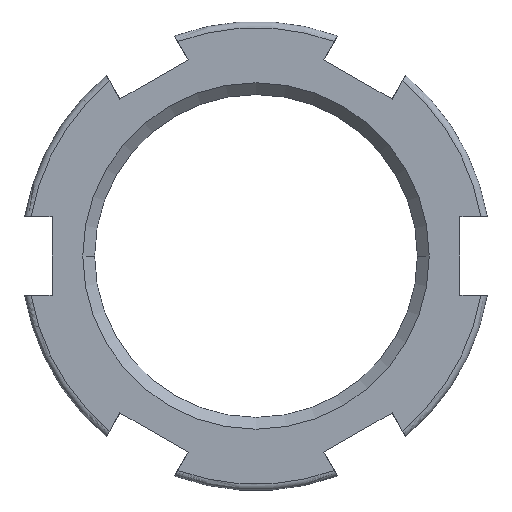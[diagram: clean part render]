
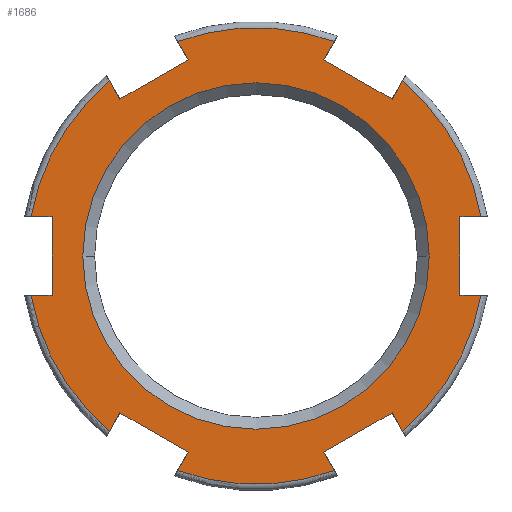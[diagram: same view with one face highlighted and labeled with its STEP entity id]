
A CAD part, front view. The second image highlights one B-rep face of the part: STEP entity #1686.
In plain terms, the highlighted planar face has unit normal (0, -1, 0).
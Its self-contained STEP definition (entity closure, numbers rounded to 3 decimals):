
#139=CARTESIAN_POINT('',(0.,0.,0.));
#140=DIRECTION('',(0.,1.,0.));
#141=DIRECTION('',(-1.,0.,0.));
#142=AXIS2_PLACEMENT_3D('',#139,#140,#141);
#147=CARTESIAN_POINT('',(0.,0.,0.));
#148=DIRECTION('',(0.,-1.,0.));
#149=DIRECTION('',(-1.,0.,0.));
#150=AXIS2_PLACEMENT_3D('',#147,#148,#149);
#155=DIRECTION('',(-0.5,0.,0.866));
#156=VECTOR('',#155,0.666);
#157=CARTESIAN_POINT('',(2.488,0.,-6.81));
#158=LINE('',#157,#156);
#162=DIRECTION('',(-0.5,0.,-0.866));
#163=VECTOR('',#162,0.666);
#164=CARTESIAN_POINT('',(-2.155,0.,-6.233));
#165=LINE('',#164,#163);
#169=DIRECTION('',(0.866,0.,-0.5));
#170=VECTOR('',#169,2.5);
#171=CARTESIAN_POINT('',(-4.32,0.,-4.983));
#172=LINE('',#171,#170);
#176=DIRECTION('',(0.5,0.,0.866));
#177=VECTOR('',#176,0.666);
#178=CARTESIAN_POINT('',(-4.653,0.,-5.56));
#179=LINE('',#178,#177);
#183=DIRECTION('',(1.,0.,0.));
#184=VECTOR('',#183,0.666);
#185=CARTESIAN_POINT('',(-7.141,0.,-1.25));
#186=LINE('',#185,#184);
#190=DIRECTION('',(0.,0.,-1.));
#191=VECTOR('',#190,2.5);
#192=CARTESIAN_POINT('',(-6.475,0.,1.25));
#193=LINE('',#192,#191);
#197=DIRECTION('',(1.,0.,0.));
#198=VECTOR('',#197,0.666);
#199=CARTESIAN_POINT('',(-7.141,0.,1.25));
#200=LINE('',#199,#198);
#204=DIRECTION('',(0.5,0.,-0.866));
#205=VECTOR('',#204,0.666);
#206=CARTESIAN_POINT('',(-4.653,0.,5.56));
#207=LINE('',#206,#205);
#211=DIRECTION('',(-0.866,0.,-0.5));
#212=VECTOR('',#211,2.5);
#213=CARTESIAN_POINT('',(-2.155,0.,6.233));
#214=LINE('',#213,#212);
#218=DIRECTION('',(0.5,0.,-0.866));
#219=VECTOR('',#218,0.666);
#220=CARTESIAN_POINT('',(-2.488,0.,6.81));
#221=LINE('',#220,#219);
#225=DIRECTION('',(-0.5,0.,-0.866));
#226=VECTOR('',#225,0.666);
#227=CARTESIAN_POINT('',(2.488,0.,6.81));
#228=LINE('',#227,#226);
#232=DIRECTION('',(-0.866,0.,0.5));
#233=VECTOR('',#232,2.5);
#234=CARTESIAN_POINT('',(4.32,0.,4.983));
#235=LINE('',#234,#233);
#239=DIRECTION('',(-0.5,0.,-0.866));
#240=VECTOR('',#239,0.666);
#241=CARTESIAN_POINT('',(4.653,0.,5.56));
#242=LINE('',#241,#240);
#246=DIRECTION('',(-1.,0.,0.));
#247=VECTOR('',#246,0.666);
#248=CARTESIAN_POINT('',(7.141,0.,1.25));
#249=LINE('',#248,#247);
#253=DIRECTION('',(0.,0.,-1.));
#254=VECTOR('',#253,2.5);
#255=CARTESIAN_POINT('',(6.475,0.,1.25));
#256=LINE('',#255,#254);
#260=DIRECTION('',(1.,0.,0.));
#261=VECTOR('',#260,0.666);
#262=CARTESIAN_POINT('',(6.475,0.,-1.25));
#263=LINE('',#262,#261);
#267=DIRECTION('',(0.5,0.,-0.866));
#268=VECTOR('',#267,0.666);
#269=CARTESIAN_POINT('',(4.32,0.,-4.983));
#270=LINE('',#269,#268);
#274=DIRECTION('',(0.866,0.,0.5));
#275=VECTOR('',#274,2.5);
#276=CARTESIAN_POINT('',(2.155,0.,-6.233));
#277=LINE('',#276,#275);
#361=CARTESIAN_POINT('',(0.,0.,0.));
#362=DIRECTION('',(0.,-1.,0.));
#363=DIRECTION('',(0.985,0.,0.172));
#364=AXIS2_PLACEMENT_3D('',#361,#362,#363);
#401=CARTESIAN_POINT('',(0.,0.,0.));
#402=DIRECTION('',(0.,-1.,0.));
#403=DIRECTION('',(0.343,0.,0.939));
#404=AXIS2_PLACEMENT_3D('',#401,#402,#403);
#441=CARTESIAN_POINT('',(0.,0.,0.));
#442=DIRECTION('',(0.,-1.,0.));
#443=DIRECTION('',(-0.642,0.,0.767));
#444=AXIS2_PLACEMENT_3D('',#441,#442,#443);
#481=CARTESIAN_POINT('',(0.,0.,0.));
#482=DIRECTION('',(0.,-1.,0.));
#483=DIRECTION('',(-0.985,0.,-0.172));
#484=AXIS2_PLACEMENT_3D('',#481,#482,#483);
#521=CARTESIAN_POINT('',(0.,0.,0.));
#522=DIRECTION('',(0.,-1.,0.));
#523=DIRECTION('',(-0.343,0.,-0.939));
#524=AXIS2_PLACEMENT_3D('',#521,#522,#523);
#541=CARTESIAN_POINT('',(0.,0.,0.));
#542=DIRECTION('',(0.,-1.,0.));
#543=DIRECTION('',(0.642,0.,-0.767));
#544=AXIS2_PLACEMENT_3D('',#541,#542,#543);
#1375=CARTESIAN_POINT('',(6.475,0.,-1.25));
#1376=CARTESIAN_POINT('',(7.141,0.,-1.25));
#1377=VERTEX_POINT('',#1375);
#1378=VERTEX_POINT('',#1376);
#1379=CARTESIAN_POINT('',(6.475,0.,1.25));
#1380=VERTEX_POINT('',#1379);
#1381=CARTESIAN_POINT('',(7.141,0.,1.25));
#1382=VERTEX_POINT('',#1381);
#1403=CARTESIAN_POINT('',(4.653,0.,5.56));
#1404=CARTESIAN_POINT('',(4.32,0.,4.983));
#1405=VERTEX_POINT('',#1403);
#1406=VERTEX_POINT('',#1404);
#1407=CARTESIAN_POINT('',(2.155,0.,6.233));
#1408=VERTEX_POINT('',#1407);
#1409=CARTESIAN_POINT('',(2.488,0.,6.81));
#1410=VERTEX_POINT('',#1409);
#1427=CARTESIAN_POINT('',(-2.488,0.,6.81));
#1428=CARTESIAN_POINT('',(-2.155,0.,6.233));
#1429=VERTEX_POINT('',#1427);
#1430=VERTEX_POINT('',#1428);
#1431=CARTESIAN_POINT('',(-4.32,0.,4.983));
#1432=VERTEX_POINT('',#1431);
#1433=CARTESIAN_POINT('',(-4.653,0.,5.56));
#1434=VERTEX_POINT('',#1433);
#1452=CARTESIAN_POINT('',(-7.141,0.,1.25));
#1453=CARTESIAN_POINT('',(-6.475,0.,1.25));
#1454=VERTEX_POINT('',#1452);
#1455=VERTEX_POINT('',#1453);
#1456=CARTESIAN_POINT('',(-6.475,0.,-1.25));
#1457=VERTEX_POINT('',#1456);
#1458=CARTESIAN_POINT('',(-7.141,0.,-1.25));
#1459=VERTEX_POINT('',#1458);
#1480=CARTESIAN_POINT('',(-5.5,0.,0.));
#1481=VERTEX_POINT('',#1480);
#1484=CARTESIAN_POINT('',(5.5,0.,0.));
#1485=VERTEX_POINT('',#1484);
#1489=CARTESIAN_POINT('',(-4.653,0.,-5.56));
#1490=CARTESIAN_POINT('',(-4.32,0.,-4.983));
#1491=VERTEX_POINT('',#1489);
#1492=VERTEX_POINT('',#1490);
#1493=CARTESIAN_POINT('',(-2.155,0.,-6.233));
#1494=VERTEX_POINT('',#1493);
#1495=CARTESIAN_POINT('',(-2.488,0.,-6.81));
#1496=VERTEX_POINT('',#1495);
#1515=CARTESIAN_POINT('',(2.488,0.,-6.81));
#1516=CARTESIAN_POINT('',(2.155,0.,-6.233));
#1517=VERTEX_POINT('',#1515);
#1518=VERTEX_POINT('',#1516);
#1519=CARTESIAN_POINT('',(4.32,0.,-4.983));
#1520=VERTEX_POINT('',#1519);
#1521=CARTESIAN_POINT('',(4.653,0.,-5.56));
#1522=VERTEX_POINT('',#1521);
#1627=CARTESIAN_POINT('',(0.,0.,0.));
#1628=DIRECTION('',(0.,-1.,0.));
#1629=DIRECTION('',(1.,0.,0.));
#1630=AXIS2_PLACEMENT_3D('',#1627,#1628,#1629);
#1631=PLANE('',#1630);
#1633=ORIENTED_EDGE('',*,*,#1632,.F.);
#1635=ORIENTED_EDGE('',*,*,#1634,.F.);
#1637=ORIENTED_EDGE('',*,*,#1636,.F.);
#1639=ORIENTED_EDGE('',*,*,#1638,.F.);
#1641=ORIENTED_EDGE('',*,*,#1640,.F.);
#1643=ORIENTED_EDGE('',*,*,#1642,.F.);
#1645=ORIENTED_EDGE('',*,*,#1644,.T.);
#1647=ORIENTED_EDGE('',*,*,#1646,.F.);
#1649=ORIENTED_EDGE('',*,*,#1648,.F.);
#1651=ORIENTED_EDGE('',*,*,#1650,.F.);
#1653=ORIENTED_EDGE('',*,*,#1652,.T.);
#1655=ORIENTED_EDGE('',*,*,#1654,.F.);
#1657=ORIENTED_EDGE('',*,*,#1656,.F.);
#1659=ORIENTED_EDGE('',*,*,#1658,.F.);
#1661=ORIENTED_EDGE('',*,*,#1660,.T.);
#1663=ORIENTED_EDGE('',*,*,#1662,.F.);
#1665=ORIENTED_EDGE('',*,*,#1664,.F.);
#1667=ORIENTED_EDGE('',*,*,#1666,.F.);
#1669=ORIENTED_EDGE('',*,*,#1668,.T.);
#1671=ORIENTED_EDGE('',*,*,#1670,.T.);
#1673=ORIENTED_EDGE('',*,*,#1672,.T.);
#1675=ORIENTED_EDGE('',*,*,#1674,.F.);
#1677=ORIENTED_EDGE('',*,*,#1676,.F.);
#1679=ORIENTED_EDGE('',*,*,#1678,.F.);
#1680=EDGE_LOOP('',(#1633,#1635,#1637,#1639,#1641,#1643,#1645,#1647,#1649,#1651,
#1653,#1655,#1657,#1659,#1661,#1663,#1665,#1667,#1669,#1671,#1673,#1675,#1677,
#1679));
#1681=FACE_OUTER_BOUND('',#1680,.F.);
#1682=ORIENTED_EDGE('',*,*,#1620,.F.);
#1683=ORIENTED_EDGE('',*,*,#1609,.T.);
#1684=EDGE_LOOP('',(#1682,#1683));
#1685=FACE_BOUND('',#1684,.F.);
#143=CIRCLE('',#142,5.5);
#151=CIRCLE('',#150,5.5);
#365=CIRCLE('',#364,7.25);
#405=CIRCLE('',#404,7.25);
#445=CIRCLE('',#444,7.25);
#485=CIRCLE('',#484,7.25);
#525=CIRCLE('',#524,7.25);
#545=CIRCLE('',#544,7.25);
#1609=EDGE_CURVE('',#1481,#1485,#151,.T.);
#1620=EDGE_CURVE('',#1481,#1485,#143,.T.);
#1632=EDGE_CURVE('',#1517,#1518,#158,.T.);
#1634=EDGE_CURVE('',#1496,#1517,#525,.T.);
#1636=EDGE_CURVE('',#1494,#1496,#165,.T.);
#1638=EDGE_CURVE('',#1492,#1494,#172,.T.);
#1640=EDGE_CURVE('',#1491,#1492,#179,.T.);
#1642=EDGE_CURVE('',#1459,#1491,#485,.T.);
#1644=EDGE_CURVE('',#1459,#1457,#186,.T.);
#1646=EDGE_CURVE('',#1455,#1457,#193,.T.);
#1648=EDGE_CURVE('',#1454,#1455,#200,.T.);
#1650=EDGE_CURVE('',#1434,#1454,#445,.T.);
#1652=EDGE_CURVE('',#1434,#1432,#207,.T.);
#1654=EDGE_CURVE('',#1430,#1432,#214,.T.);
#1656=EDGE_CURVE('',#1429,#1430,#221,.T.);
#1658=EDGE_CURVE('',#1410,#1429,#405,.T.);
#1660=EDGE_CURVE('',#1410,#1408,#228,.T.);
#1662=EDGE_CURVE('',#1406,#1408,#235,.T.);
#1664=EDGE_CURVE('',#1405,#1406,#242,.T.);
#1666=EDGE_CURVE('',#1382,#1405,#365,.T.);
#1668=EDGE_CURVE('',#1382,#1380,#249,.T.);
#1670=EDGE_CURVE('',#1380,#1377,#256,.T.);
#1672=EDGE_CURVE('',#1377,#1378,#263,.T.);
#1674=EDGE_CURVE('',#1522,#1378,#545,.T.);
#1676=EDGE_CURVE('',#1520,#1522,#270,.T.);
#1678=EDGE_CURVE('',#1518,#1520,#277,.T.);
#1686=ADVANCED_FACE('',(#1681,#1685),#1631,.T.);
